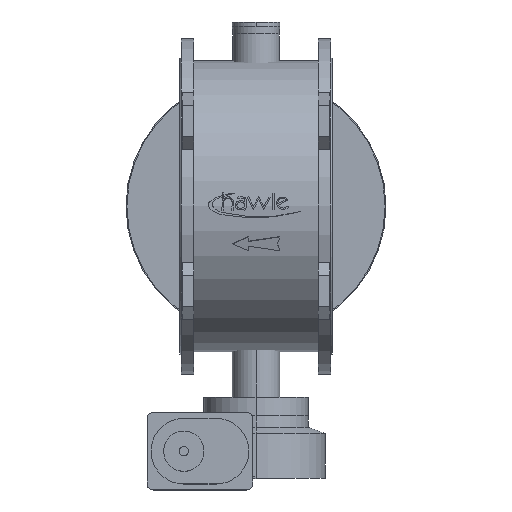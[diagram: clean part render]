
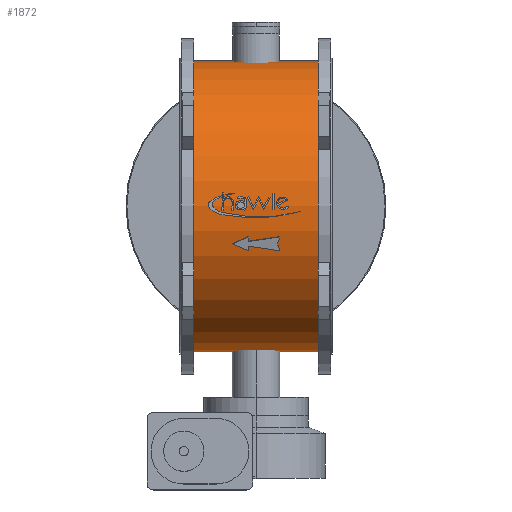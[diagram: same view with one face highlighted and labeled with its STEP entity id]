
A CAD part, top view. The second image highlights one B-rep face of the part: STEP entity #1872.
In plain terms, the highlighted cylindrical face has radius 488 mm (diameter 976 mm), a partial arc.
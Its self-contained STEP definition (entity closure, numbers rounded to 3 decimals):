
#1872=ADVANCED_FACE('',(#3575),#3576,.T.);
#3575=FACE_OUTER_BOUND('',#5432,.T.);
#3576=CYLINDRICAL_SURFACE('',#5433,488.0);
#5432=EDGE_LOOP('',(#9082,#9083,#9084,#9085));
#5433=AXIS2_PLACEMENT_3D('',#9086,#9087,#9088);
#9082=ORIENTED_EDGE('',*,*,#11181,.T.);
#9083=ORIENTED_EDGE('',*,*,#10167,.T.);
#9084=ORIENTED_EDGE('',*,*,#11182,.T.);
#9085=ORIENTED_EDGE('',*,*,#10977,.T.);
#9086=CARTESIAN_POINT('',(-463.5,0.,0.0));
#9087=DIRECTION('',(1.0,0.,0.0));
#9088=DIRECTION('',(0.,-1.0,0.0));
#10167=EDGE_CURVE('',#12064,#12065,#12066,.T.);
#10977=EDGE_CURVE('',#13241,#13240,#13243,.T.);
#11181=EDGE_CURVE('',#13240,#12064,#13476,.T.);
#11182=EDGE_CURVE('',#12065,#13241,#13477,.T.);
#12064=VERTEX_POINT('',#14532);
#12065=VERTEX_POINT('',#14533);
#12066=CIRCLE('',#14534,488.0);
#13240=VERTEX_POINT('',#16023);
#13241=VERTEX_POINT('',#16024);
#13243=CIRCLE('',#16026,488.0);
#13476=LINE('',#16320,#16321);
#13477=LINE('',#16322,#16323);
#14532=CARTESIAN_POINT('',(-46.5,-488.0,0.0));
#14533=CARTESIAN_POINT('',(-46.5,488.0,0.));
#14534=AXIS2_PLACEMENT_3D('',#17204,#17205,#17206);
#16023=CARTESIAN_POINT('',(-463.5,-488.0,0.0));
#16024=CARTESIAN_POINT('',(-463.5,488.0,0.));
#16026=AXIS2_PLACEMENT_3D('',#18323,#18324,#18325);
#16320=CARTESIAN_POINT('',(-463.5,-488.0,0.));
#16321=VECTOR('',#18507,1.0);
#16322=CARTESIAN_POINT('',(-463.5,488.0,0.));
#16323=VECTOR('',#18508,1.0);
#17204=CARTESIAN_POINT('',(-46.5,0.,0.0));
#17205=DIRECTION('',(-1.0,0.,0.0));
#17206=DIRECTION('',(0.,-1.0,0.0));
#18323=CARTESIAN_POINT('',(-463.5,0.,0.0));
#18324=DIRECTION('',(1.0,0.,0.0));
#18325=DIRECTION('',(0.,-1.0,0.0));
#18507=DIRECTION('',(1.0,0.,0.0));
#18508=DIRECTION('',(-1.0,0.,-0.0));
